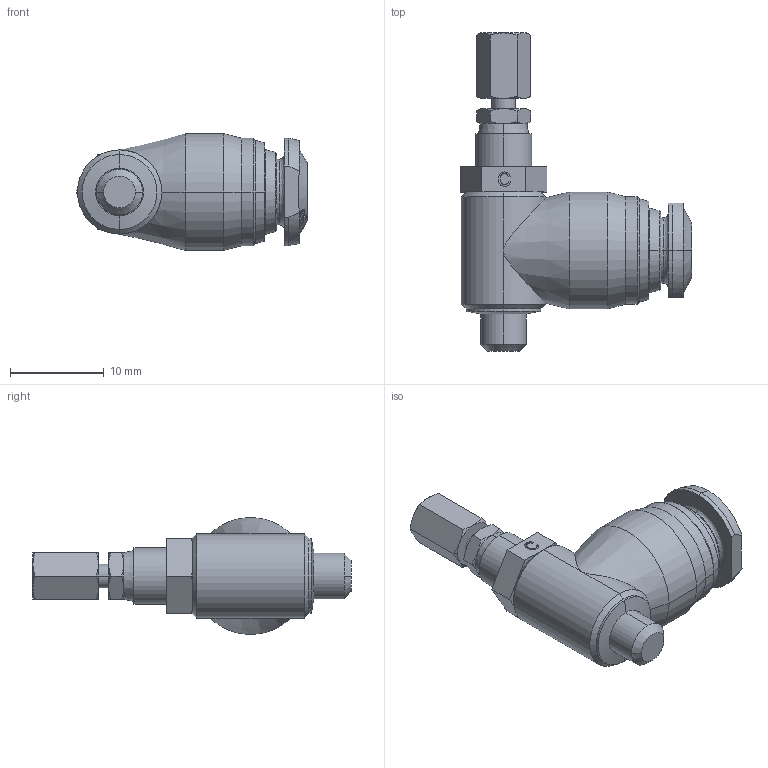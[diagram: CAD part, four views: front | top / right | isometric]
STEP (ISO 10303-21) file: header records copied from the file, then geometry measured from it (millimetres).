
FILE_DESCRIPTION (( 'STEP AP203' ), '1' );
FILE_NAME ('249923.STEP', '2016-09-20T13:25:00', ( '' ), ( '' ), 'SwSTEP 2.0', 'SolidWorks 2016', '' );
FILE_SCHEMA (( 'CONFIG_CONTROL_DESIGN' ));
Length unit declared in the file: millimetre
Products named in the file (1): 249923
Bounding box: 24.72 x 34 x 12.5 mm (x, y, z)
Volume: 2972.8 mm3; surface area: 1604.1 mm2
Topology: 1 solids, 1 shells, 261 faces, 662 edges, 424 vertices
Faces by surface type: bspline 128, cone 71, plane 40, cylinder 22
Entity records: 17094 total; most frequent: CARTESIAN_POINT 11647, ORIENTED_EDGE 1324, DIRECTION 740, EDGE_CURVE 662, VERTEX_POINT 424, B_SPLINE_CURVE_WITH_KNOTS 312, EDGE_LOOP 282, FACE_OUTER_BOUND 261
